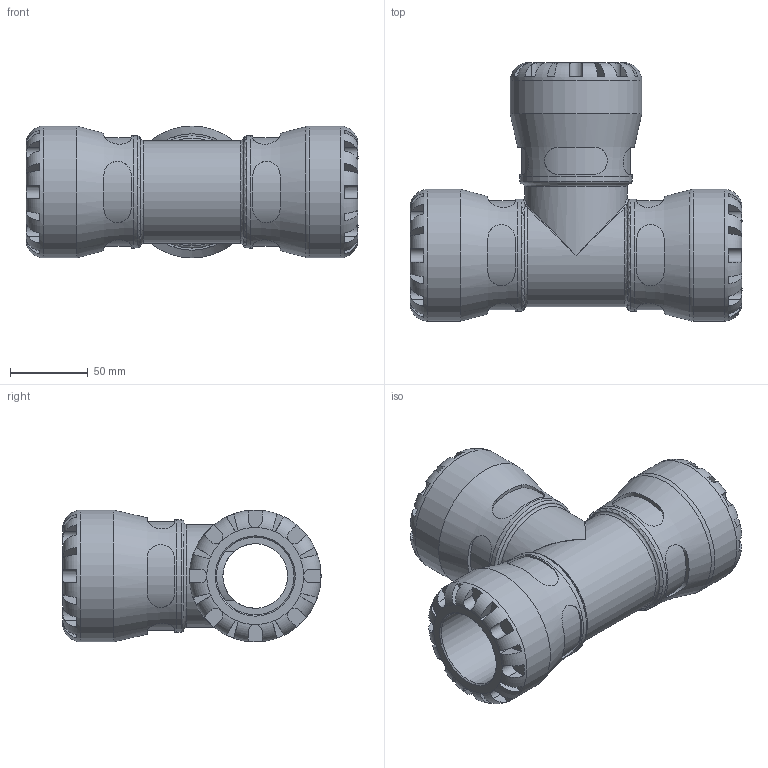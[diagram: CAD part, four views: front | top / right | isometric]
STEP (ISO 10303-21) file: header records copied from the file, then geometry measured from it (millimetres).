
FILE_DESCRIPTION(/* description */ ('PLASSON TEE 50X50X50 SERIES 1'),/* implementation_level */ '2;1');
FILE_NAME(/* name */ 'C:\Dropbox\KIMPROJECTS-Inventor\99-16-3568-Processing\S1\1004\100400050_190400050.ipt.stp',/* time_stamp */ '2018-02-11T12:57:38+02:00',/* author */ ('KIM'),/* organization */ (''),/* preprocessor_version */ 'ST-DEVELOPER v15.6',/* originating_system */ 'Autodesk Inventor 2015',/* authorisation */ '');
FILE_SCHEMA (('AUTOMOTIVE_DESIGN { 1 0 10303 214 3 1 1 }'));
Length unit declared in the file: millimetre
Products named in the file (1): 100400050_190400050
Bounding box: 214 x 166.5 x 85 mm (x, y, z)
Volume: 798387.8 mm3; surface area: 137604 mm2
Topology: 1 solids, 1 shells, 298 faces, 768 edges, 477 vertices
Faces by surface type: plane 174, cylinder 99, torus 13, bspline 10, cone 2
Full cylindrical faces by diameter (mm): 41.667 x2, 50 x3, 66.3 x1, 72.25 x3, 85 x3
Entity records: 12079 total; most frequent: CARTESIAN_POINT 5099, ORIENTED_EDGE 1432, DIRECTION 1350, EDGE_CURVE 716, AXIS2_PLACEMENT_3D 553, VERTEX_POINT 458, EDGE_LOOP 340, FACE_OUTER_BOUND 298
